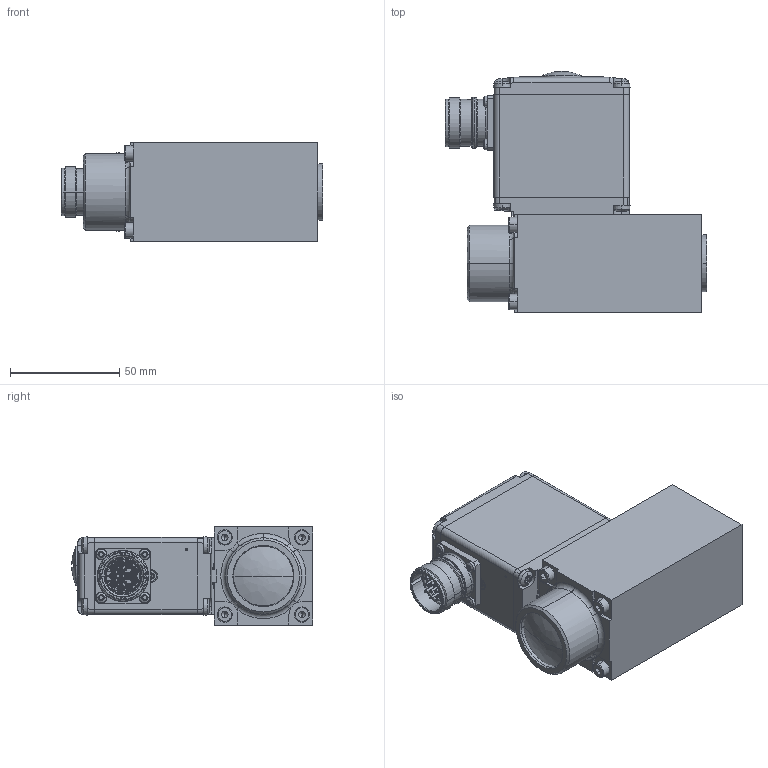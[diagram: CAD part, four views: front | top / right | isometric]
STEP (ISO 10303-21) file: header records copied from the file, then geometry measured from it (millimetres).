
FILE_DESCRIPTION (( 'STEP AP203' ), '1' );
FILE_NAME ('PI45LV-P1-24A..STEP', '2014-07-14T12:55:50', ( '' ), ( '' ), 'SwSTEP 2.0', 'SolidWorks 2014', '' );
FILE_SCHEMA (( 'CONFIG_CONTROL_DESIGN' ));
Length unit declared in the file: millimetre
Products named in the file (2): PI45LV-P1-24A.
Bounding box: 119.7 x 110.39 x 45 mm (x, y, z)
Volume: 251810.5 mm3; surface area: 92784.4 mm2
Topology: 62 solids, 62 shells, 4534 faces, 12221 edges, 7903 vertices
Faces by surface type: plane 2430, cylinder 1186, torus 350, cone 349, bspline 146, sphere 73
Entity records: 148122 total; most frequent: CARTESIAN_POINT 34505, ORIENTED_EDGE 24244, DIRECTION 23143, EDGE_CURVE 12122, VERTEX_POINT 7879, VECTOR 7715, LINE 7715, AXIS2_PLACEMENT_3D 7714
